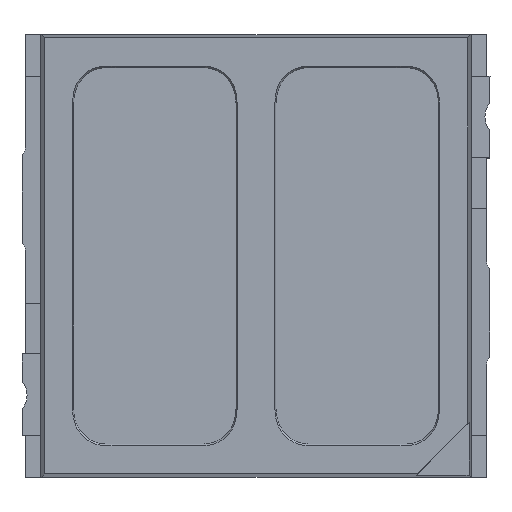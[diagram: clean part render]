
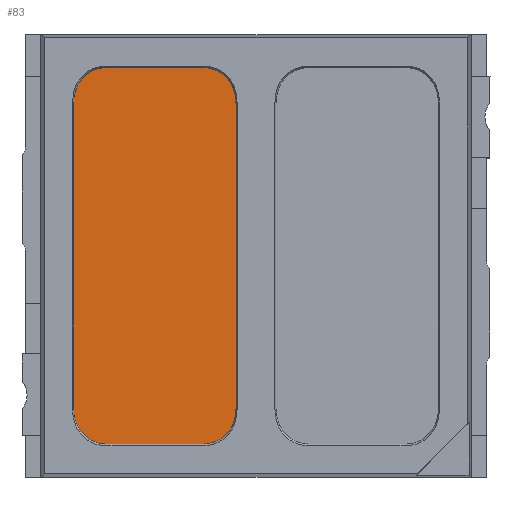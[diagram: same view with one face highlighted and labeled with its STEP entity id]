
A CAD part, top view. The second image highlights one B-rep face of the part: STEP entity #83.
In plain terms, the highlighted planar face has unit normal (0, 0, 1).
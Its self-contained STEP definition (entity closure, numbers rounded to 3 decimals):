
#83=ADVANCED_FACE('',(#210),#211,.T.);
#210=FACE_OUTER_BOUND('',#448,.T.);
#211=PLANE('',#449);
#448=EDGE_LOOP('',(#726,#727,#728,#729,#730,#731,#732,#733,#734,#735,#736,#737));
#449=AXIS2_PLACEMENT_3D('',#738,#739,#740);
#726=ORIENTED_EDGE('',*,*,#1707,.F.);
#727=ORIENTED_EDGE('',*,*,#1732,.F.);
#728=ORIENTED_EDGE('',*,*,#1725,.F.);
#729=ORIENTED_EDGE('',*,*,#1733,.F.);
#730=ORIENTED_EDGE('',*,*,#1734,.F.);
#731=ORIENTED_EDGE('',*,*,#1735,.F.);
#732=ORIENTED_EDGE('',*,*,#1731,.F.);
#733=ORIENTED_EDGE('',*,*,#1736,.F.);
#734=ORIENTED_EDGE('',*,*,#1701,.F.);
#735=ORIENTED_EDGE('',*,*,#1737,.F.);
#736=ORIENTED_EDGE('',*,*,#1738,.F.);
#737=ORIENTED_EDGE('',*,*,#1739,.F.);
#738=CARTESIAN_POINT('',(-0.8,0.,-0.02));
#739=DIRECTION('',(0.0,0.0,1.0));
#740=DIRECTION('',(-1.0,0.,0.0));
#1701=EDGE_CURVE('',#2038,#2041,#2042,.T.);
#1707=EDGE_CURVE('',#2051,#2047,#2053,.T.);
#1725=EDGE_CURVE('',#2086,#2089,#2090,.T.);
#1731=EDGE_CURVE('',#2099,#2095,#2101,.T.);
#1732=EDGE_CURVE('',#2089,#2051,#2102,.T.);
#1733=EDGE_CURVE('',#2103,#2086,#2104,.T.);
#1734=EDGE_CURVE('',#2105,#2103,#2106,.T.);
#1735=EDGE_CURVE('',#2095,#2105,#2107,.T.);
#1736=EDGE_CURVE('',#2041,#2099,#2108,.T.);
#1737=EDGE_CURVE('',#2109,#2038,#2110,.T.);
#1738=EDGE_CURVE('',#2111,#2109,#2112,.T.);
#1739=EDGE_CURVE('',#2047,#2111,#2113,.T.);
#2038=VERTEX_POINT('',#2600);
#2041=VERTEX_POINT('',#2604);
#2042=ELLIPSE('',#2605,0.365,0.3);
#2047=VERTEX_POINT('',#2611);
#2051=VERTEX_POINT('',#2616);
#2053=ELLIPSE('',#2619,0.365,0.3);
#2086=VERTEX_POINT('',#2660);
#2089=VERTEX_POINT('',#2664);
#2090=ELLIPSE('',#2665,0.365,0.3);
#2095=VERTEX_POINT('',#2671);
#2099=VERTEX_POINT('',#2676);
#2101=ELLIPSE('',#2679,0.365,0.3);
#2102=LINE('',#2680,#2681);
#2103=VERTEX_POINT('',#2682);
#2104=ELLIPSE('',#2683,0.365,0.3);
#2105=VERTEX_POINT('',#2684);
#2106=LINE('',#2685,#2686);
#2107=ELLIPSE('',#2687,0.365,0.3);
#2108=LINE('',#2688,#2689);
#2109=VERTEX_POINT('',#2690);
#2110=ELLIPSE('',#2691,0.365,0.3);
#2111=VERTEX_POINT('',#2692);
#2112=LINE('',#2693,#2694);
#2113=ELLIPSE('',#2695,0.365,0.3);
#2600=CARTESIAN_POINT('',(-0.232,-1.408,-0.02));
#2604=CARTESIAN_POINT('',(-0.421,-1.488,-0.02));
#2605=AXIS2_PLACEMENT_3D('',#3441,#3442,#3443);
#2611=CARTESIAN_POINT('',(-0.232,1.408,-0.02));
#2616=CARTESIAN_POINT('',(-0.421,1.488,-0.02));
#2619=AXIS2_PLACEMENT_3D('',#3453,#3454,#3455);
#2660=CARTESIAN_POINT('',(-1.368,1.408,-0.02));
#2664=CARTESIAN_POINT('',(-1.179,1.488,-0.02));
#2665=AXIS2_PLACEMENT_3D('',#3489,#3490,#3491);
#2671=CARTESIAN_POINT('',(-1.368,-1.408,-0.02));
#2676=CARTESIAN_POINT('',(-1.179,-1.488,-0.02));
#2679=AXIS2_PLACEMENT_3D('',#3501,#3502,#3503);
#2680=CARTESIAN_POINT('',(-1.179,1.488,-0.02));
#2681=VECTOR('',#3504,0.757);
#2682=CARTESIAN_POINT('',(-1.442,1.204,-0.02));
#2683=AXIS2_PLACEMENT_3D('',#3505,#3506,#3507);
#2684=CARTESIAN_POINT('',(-1.442,-1.204,-0.02));
#2685=CARTESIAN_POINT('',(-1.442,-1.204,-0.02));
#2686=VECTOR('',#3508,2.408);
#2687=AXIS2_PLACEMENT_3D('',#3509,#3510,#3511);
#2688=CARTESIAN_POINT('',(-0.421,-1.488,-0.02));
#2689=VECTOR('',#3512,0.757);
#2690=CARTESIAN_POINT('',(-0.158,-1.204,-0.02));
#2691=AXIS2_PLACEMENT_3D('',#3513,#3514,#3515);
#2692=CARTESIAN_POINT('',(-0.158,1.204,-0.02));
#2693=CARTESIAN_POINT('',(-0.158,1.204,-0.02));
#2694=VECTOR('',#3516,2.408);
#2695=AXIS2_PLACEMENT_3D('',#3517,#3518,#3519);
#3441=CARTESIAN_POINT('',(-0.479,-1.142,-0.02));
#3442=DIRECTION('',(0.0,-0.0,-1.0));
#3443=DIRECTION('',(0.554,-0.833,0.0));
#3453=CARTESIAN_POINT('',(-0.479,1.142,-0.02));
#3454=DIRECTION('',(0.0,0.0,-1.0));
#3455=DIRECTION('',(0.554,0.833,0.0));
#3489=CARTESIAN_POINT('',(-1.121,1.142,-0.02));
#3490=DIRECTION('',(0.,0.,-1.0));
#3491=DIRECTION('',(-0.554,0.833,0.));
#3501=CARTESIAN_POINT('',(-1.121,-1.142,-0.02));
#3502=DIRECTION('',(0.,0.,-1.0));
#3503=DIRECTION('',(-0.554,-0.833,0.));
#3504=DIRECTION('',(1.0,0.,0.0));
#3505=CARTESIAN_POINT('',(-1.121,1.142,-0.02));
#3506=DIRECTION('',(0.,0.,-1.0));
#3507=DIRECTION('',(-0.554,0.833,0.));
#3508=DIRECTION('',(0.,1.0,0.0));
#3509=CARTESIAN_POINT('',(-1.121,-1.142,-0.02));
#3510=DIRECTION('',(0.,0.,-1.0));
#3511=DIRECTION('',(-0.554,-0.833,0.));
#3512=DIRECTION('',(-1.0,0.,0.0));
#3513=CARTESIAN_POINT('',(-0.479,-1.142,-0.02));
#3514=DIRECTION('',(0.0,-0.0,-1.0));
#3515=DIRECTION('',(0.554,-0.833,0.0));
#3516=DIRECTION('',(0.,-1.0,0.0));
#3517=CARTESIAN_POINT('',(-0.479,1.142,-0.02));
#3518=DIRECTION('',(0.0,0.0,-1.0));
#3519=DIRECTION('',(0.554,0.833,0.0));
